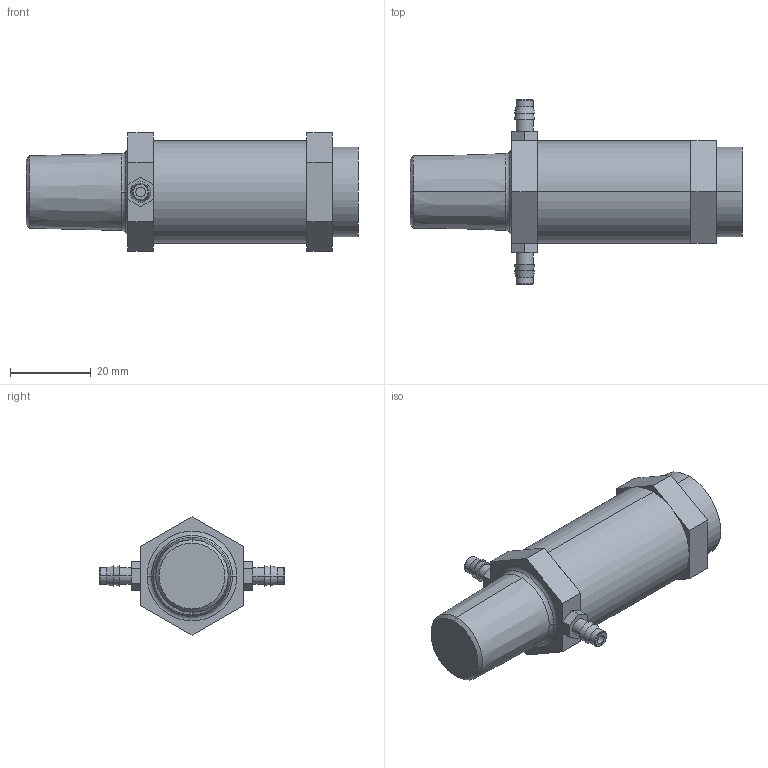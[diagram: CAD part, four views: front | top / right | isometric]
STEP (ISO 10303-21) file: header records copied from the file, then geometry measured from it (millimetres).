
FILE_DESCRIPTION((''),'2;1');
FILE_NAME('UDR2_ASM','2017-08-24T',('jennifer.elliott'),('CenterLine (Windsor) Ltd - Automation Components Division'),'PRO/ENGINEER BY PARAMETRIC TECHNOLOGY CORPORATION, 2015030','PRO/ENGINEER BY PARAMETRIC TECHNOLOGY CORPORATION, 2015030','');
FILE_SCHEMA(('AUTOMOTIVE_DESIGN { 1 0 10303 214 1 1 1 1 }'));
Length unit declared in the file: inch
Products named in the file (7): PRT0097; PRT0098; PRT0099; PRT0100; PRT0101; PRT0102; UDR2_ASM
Assembly tree (6 placements, depth 2):
  UDR2_ASM
    PRT0097
    PRT0098
    PRT0099
    PRT0100
    PRT0101
    PRT0102
Bounding box: 82.42 x 46.02 x 29.33 mm (x, y, z)
Volume: 36042.7 mm3; surface area: 10624.7 mm2
Topology: 6 solids, 6 shells, 83 faces, 177 edges, 113 vertices
Faces by surface type: plane 43, cylinder 16, torus 12, cone 12
Entity records: 2699 total; most frequent: DIRECTION 446, CARTESIAN_POINT 405, ORIENTED_EDGE 354, EDGE_CURVE 177, AXIS2_PLACEMENT_3D 173, VERTEX_POINT 113, VECTOR 100, LINE 100
